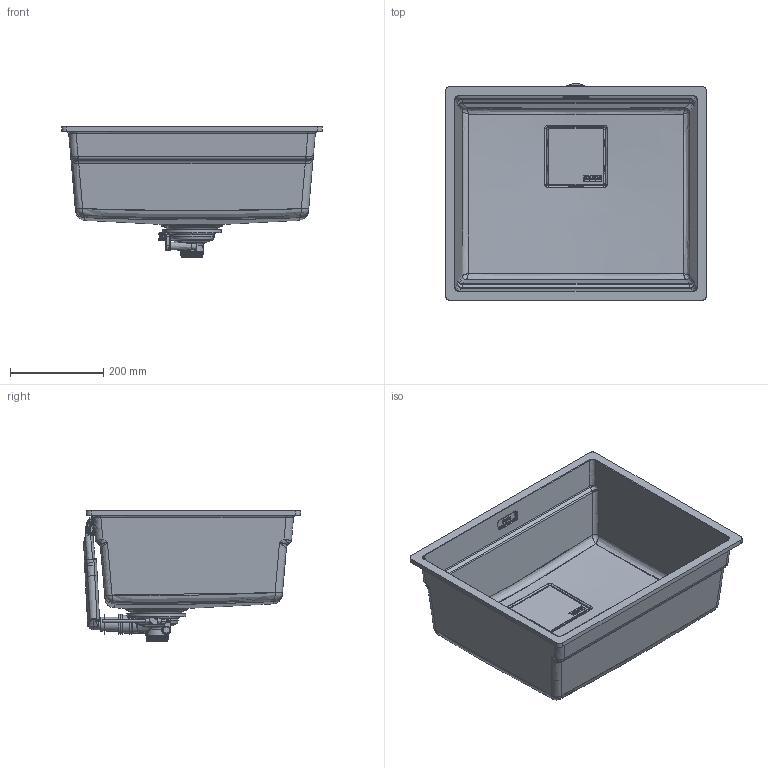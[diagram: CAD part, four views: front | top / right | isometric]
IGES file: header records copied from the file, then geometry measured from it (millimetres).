
Global section: file name: F:\_CONVERSIONE_CAD_2024_2025\_2024\03_3D kits new\Sinks\KUBUS-2\125.0706.704 3D001_Sinks_Kubus-2_KNG-110-52\3D001_Sinks_Kubus-2_KNG-110-52.igs; native system: Rhinoceros ( May 17 2024 ); preprocessor: Trout Lake IGES 012 May 17 2024; date: 240704.133144; units: millimetre
Bounding box: 560 x 466.34 x 280.16 mm (x, y, z)
Surface area: 1267637.1 mm2 (no closed solid volume)
Topology: 0 solids, 0 shells, 2609 faces, 15764 edges, 15699 vertices
Faces by surface type: bspline 2609
